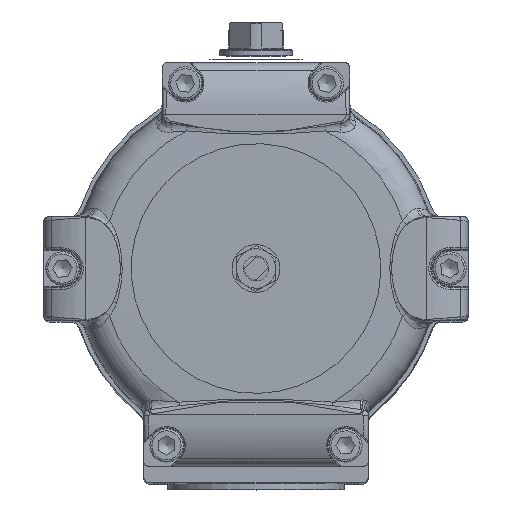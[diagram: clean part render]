
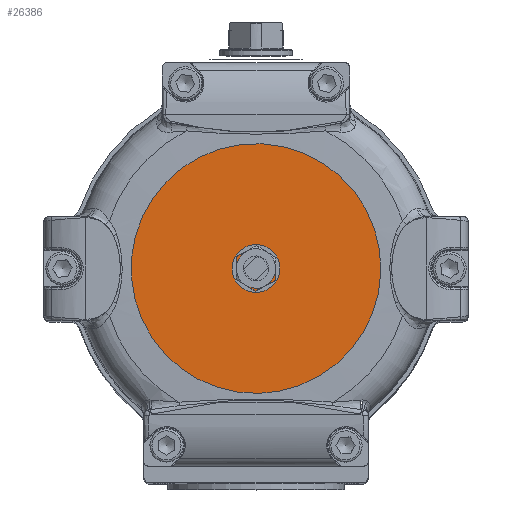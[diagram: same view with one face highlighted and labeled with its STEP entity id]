
A CAD part, top view. The second image highlights one B-rep face of the part: STEP entity #26386.
In plain terms, the highlighted planar face has unit normal (0, 0, 1).
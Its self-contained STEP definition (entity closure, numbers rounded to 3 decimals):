
#16377=CARTESIAN_POINT('',(58.778,-12.05,206.5));
#16378=VERTEX_POINT('',#16377);
#16379=CARTESIAN_POINT('',(0.,0.,206.5));
#16380=DIRECTION('',(0.0,0.0,-1.0));
#16381=DIRECTION('',(1.0,0.0,0.0));
#16382=AXIS2_PLACEMENT_3D('',#16379,#16380,#16381);
#16383=CIRCLE('',#16382,60.);
#16384=EDGE_CURVE('',#16378,#16378,#16383,.T.);
#26367=CARTESIAN_POINT('',(30.0,0.,206.5));
#26368=DIRECTION('',(0.0,0.0,1.0));
#26369=DIRECTION('',(0.0,1.0,0.0));
#26370=AXIS2_PLACEMENT_3D('',#26367,#26368,#26369);
#26371=PLANE('',#26370);
#26372=ORIENTED_EDGE('',*,*,#16384,.F.);
#26373=EDGE_LOOP('',(#26372));
#26374=FACE_OUTER_BOUND('',#26373,.T.);
#26375=CARTESIAN_POINT('',(5.053,0.,206.5));
#26376=VERTEX_POINT('',#26375);
#26377=CARTESIAN_POINT('',(0.,0.,206.5));
#26378=DIRECTION('',(0.0,0.0,-1.0));
#26379=DIRECTION('',(-1.0,0.0,0.0));
#26380=AXIS2_PLACEMENT_3D('',#26377,#26378,#26379);
#26381=CIRCLE('',#26380,5.053);
#26382=EDGE_CURVE('',#26376,#26376,#26381,.T.);
#26383=ORIENTED_EDGE('',*,*,#26382,.T.);
#26384=EDGE_LOOP('',(#26383));
#26385=FACE_BOUND('',#26384,.T.);
#26386=ADVANCED_FACE('',(#26374,#26385),#26371,.T.);
